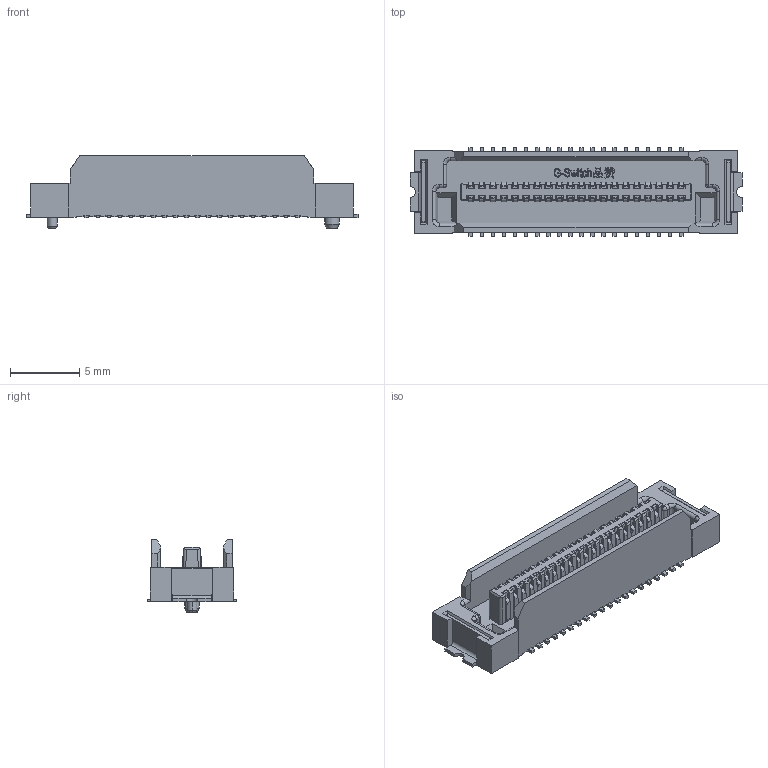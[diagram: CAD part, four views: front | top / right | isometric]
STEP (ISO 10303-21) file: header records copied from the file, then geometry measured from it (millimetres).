
FILE_DESCRIPTION (( 'STEP AP203' ), '1' );
FILE_NAME ('GT-B0810MSV45-40B0102.STEP', '2025-12-29T01:10:13', ( '' ), ( '' ), 'SwSTEP 2.0', 'SolidWorks 2020', '' );
FILE_SCHEMA (( 'CONFIG_CONTROL_DESIGN' ));
Products named in the file (1): GT-B0810MSV45-40B0102
Bounding box: 23.98 x 6.42 x 5.25 mm (x, y, z)
Volume: 301.3 mm3; surface area: 1131.2 mm2
Topology: 1 solids, 1 shells, 3928 faces, 11286 edges, 7381 vertices
Faces by surface type: plane 2836, cylinder 1008, bspline 71, torus 8, cone 3, sphere 2
Entity records: 131831 total; most frequent: CARTESIAN_POINT 28043, ORIENTED_EDGE 22568, DIRECTION 20576, EDGE_CURVE 11284, LINE 8816, VECTOR 8816, VERTEX_POINT 7381, AXIS2_PLACEMENT_3D 5880
